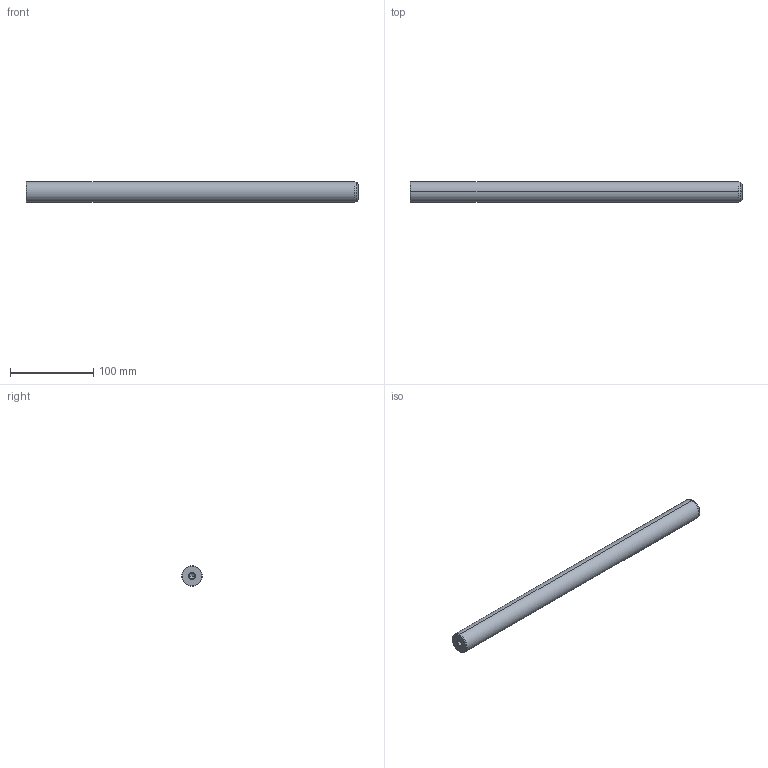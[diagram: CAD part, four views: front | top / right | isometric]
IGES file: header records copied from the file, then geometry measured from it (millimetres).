
Start section: START RECORD GO HERE.
Global section: file name: 720-25x400.igs; native system: DASSAULT SYSTEMES CATIA V5 R20 - www.3ds.com; preprocessor: CATIA Version 5 Release 20 ; author: Utente; organization: NB04-ASUS; date: 20210101.133716; units: millimetre
Bounding box: 400 x 25 x 25 mm (x, y, z)
Surface area: 33226.6 mm2 (no closed solid volume)
Topology: 0 solids, 0 shells, 22 faces, 120 edges, 116 vertices
Faces by surface type: revolution 20, plane 2
